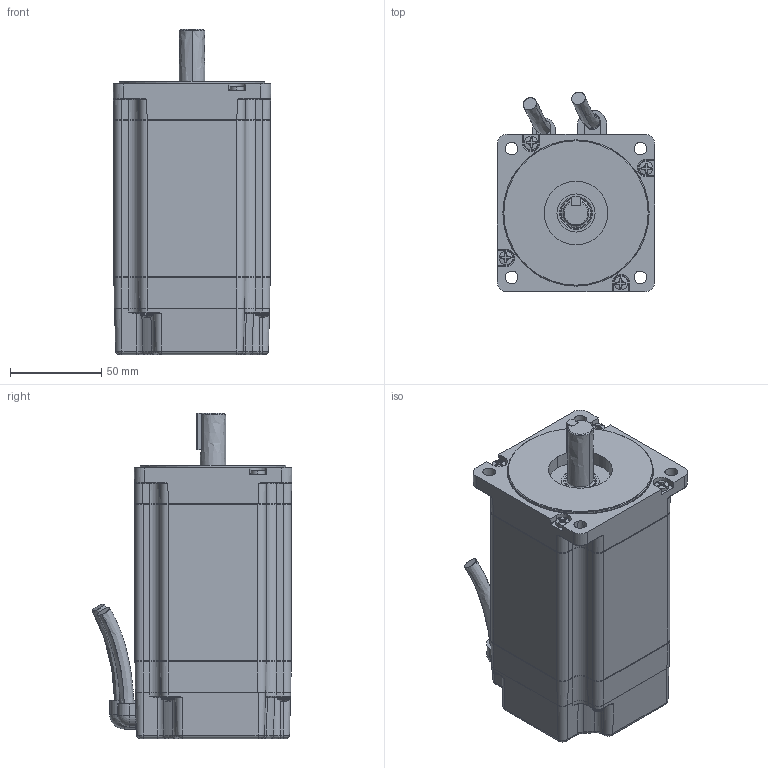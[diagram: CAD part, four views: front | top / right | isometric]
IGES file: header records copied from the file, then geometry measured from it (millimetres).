
Start section:  PTC IGES file: vlm32a.igs
Global section: file name: vlm32a.igs; native system: Pro/ENGINEER by Parametric Technology Corporation; preprocessor: 2006510; author: Ray.Dobbins; organization: Unknown; date: 20110726.111708; units: inch
Bounding box: 86.56 x 109.74 x 178.55 mm (x, y, z)
Surface area: 225739.5 mm2 (no closed solid volume)
Topology: 0 solids, 0 shells, 2118 faces, 11545 edges, 11535 vertices
Faces by surface type: revolution 1256, bspline 862
